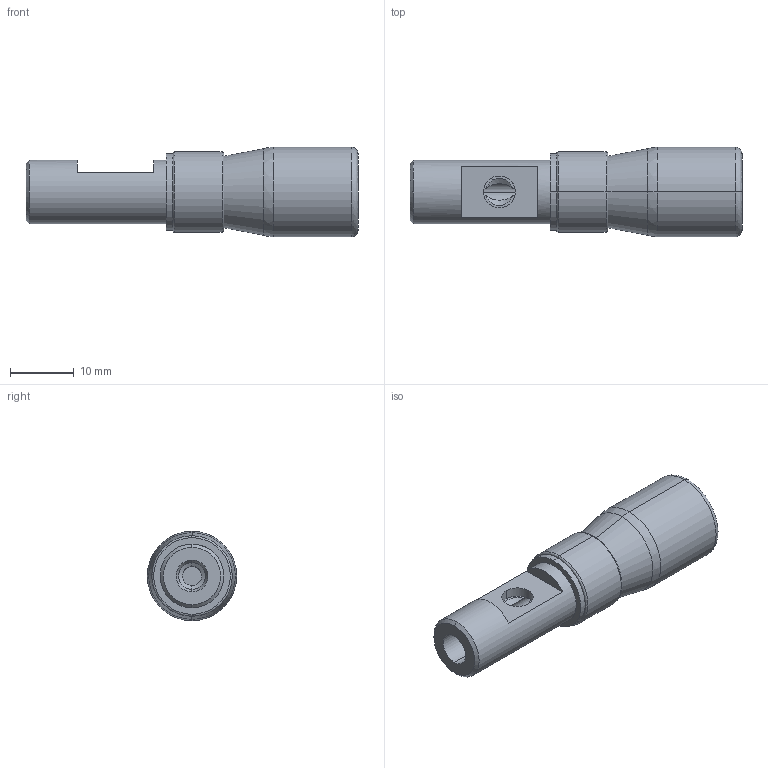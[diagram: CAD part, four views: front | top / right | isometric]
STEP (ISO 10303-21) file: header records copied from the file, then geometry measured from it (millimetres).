
FILE_DESCRIPTION( (''), '2;1');
FILE_NAME ('TGMX25.1684.RBP010RCA_22848.stp','2015-03-30T15:10:39',(''),(''),'spGate 11.3.7','spGate','');
FILE_SCHEMA (('AUTOMOTIVE_DESIGN'));
Length unit declared in the file: millimetre
Bounding box: 52 x 14 x 14 mm (x, y, z)
Volume: 5242.2 mm3; surface area: 2633.2 mm2
Topology: 1 solids, 1 shells, 49 faces, 107 edges, 65 vertices
Faces by surface type: bspline 20, cylinder 18, plane 11
Entity records: 2505 total; most frequent: CARTESIAN_POINT 630, ORIENTED_EDGE 214, DIRECTION 184, COLOUR_RGB 157, PRESENTATION_STYLE_ASSIGNMENT 157, STYLED_ITEM 157, EDGE_CURVE 107, DRAUGHTING_PRE_DEFINED_CURVE_FONT 107
